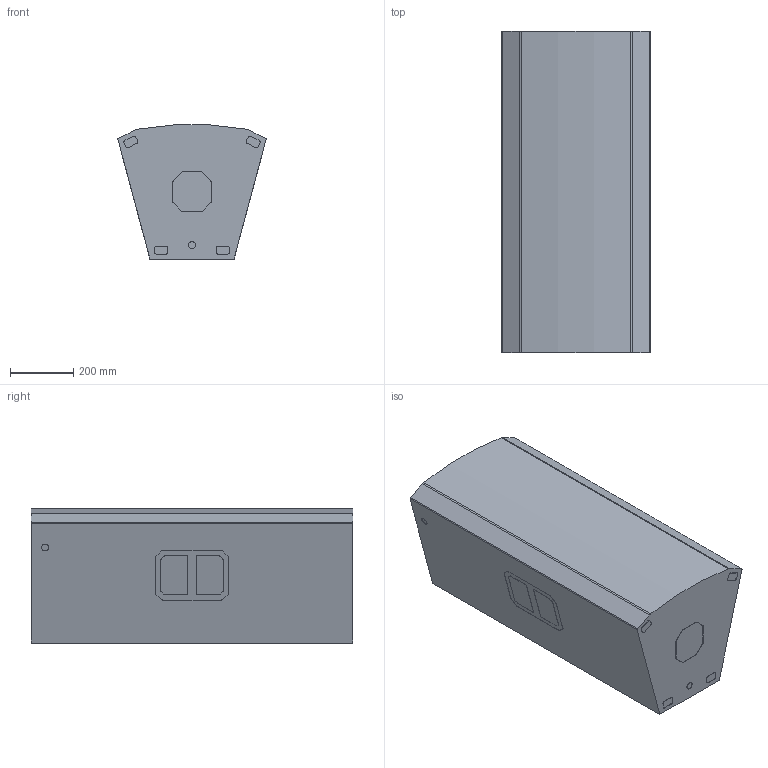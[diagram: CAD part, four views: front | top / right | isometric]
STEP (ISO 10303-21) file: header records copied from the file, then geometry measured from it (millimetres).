
FILE_DESCRIPTION (( 'STEP AP203' ), '1' );
FILE_NAME ('ETX 35P_SIMPLIFIED.STEP', '2018-02-21T20:51:00', ( '' ), ( '' ), 'SwSTEP 2.0', 'SolidWorks 2016', '' );
FILE_SCHEMA (( 'CONFIG_CONTROL_DESIGN' ));
Length unit declared in the file: millimetre
Products named in the file (2): ETX 35P_SIMPLIFIED
Bounding box: 468.6 x 1016 x 423.77 mm (x, y, z)
Volume: 158114802.2 mm3; surface area: 1878988.6 mm2
Topology: 1 solids, 1 shells, 202 faces, 540 edges, 360 vertices
Faces by surface type: plane 99, cylinder 55, bspline 48
Entity records: 6573 total; most frequent: CARTESIAN_POINT 1728, ORIENTED_EDGE 1080, DIRECTION 866, EDGE_CURVE 540, VERTEX_POINT 360, VECTOR 334, LINE 334, AXIS2_PLACEMENT_3D 266
